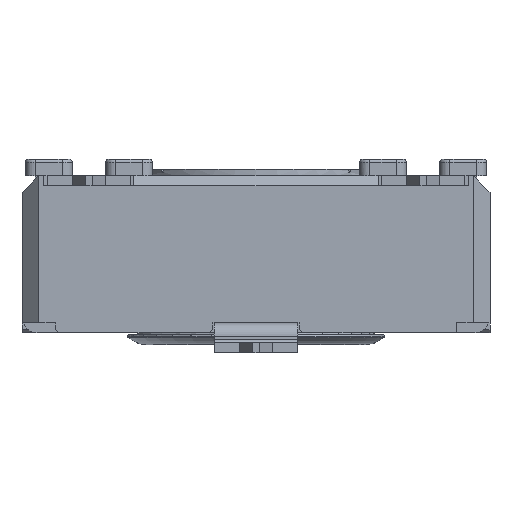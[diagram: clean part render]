
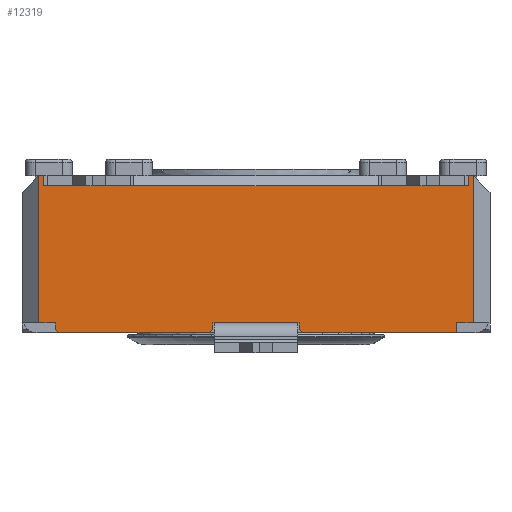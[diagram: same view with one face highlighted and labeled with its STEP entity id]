
A CAD part, front view. The second image highlights one B-rep face of the part: STEP entity #12319.
In plain terms, the highlighted planar face has unit normal (0, -1, 0).
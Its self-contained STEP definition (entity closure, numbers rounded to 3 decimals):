
#188=PLANE('',#13020);
#683=FACE_OUTER_BOUND('',#1347,.T.);
#1347=EDGE_LOOP('',(#8540,#8541,#8542,#8543,#8544,#8545,#8546,#8547,#8548,
#8549,#8550,#8551,#8552,#8553,#8554,#8555,#8556,#8557,#8558,#8559,#8560,
#8561,#8562,#8563,#8564,#8565,#8566));
#2022=LINE('',#17528,#3484);
#2035=LINE('',#17562,#3497);
#2040=LINE('',#17572,#3502);
#2118=LINE('',#17731,#3580);
#2143=LINE('',#17782,#3605);
#2169=LINE('',#17846,#3631);
#2170=LINE('',#17848,#3632);
#2171=LINE('',#17850,#3633);
#2172=LINE('',#17851,#3634);
#2173=LINE('',#17853,#3635);
#2174=LINE('',#17855,#3636);
#2175=LINE('',#17857,#3637);
#2176=LINE('',#17859,#3638);
#2177=LINE('',#17860,#3639);
#2178=LINE('',#17862,#3640);
#2179=LINE('',#17864,#3641);
#2180=LINE('',#17866,#3642);
#2181=LINE('',#17868,#3643);
#2182=LINE('',#17870,#3644);
#2183=LINE('',#17872,#3645);
#2184=LINE('',#17874,#3646);
#2185=LINE('',#17876,#3647);
#2186=LINE('',#17878,#3648);
#2187=LINE('',#17879,#3649);
#2188=LINE('',#17881,#3650);
#2189=LINE('',#17883,#3651);
#2190=LINE('',#17884,#3652);
#3484=VECTOR('',#14041,10.);
#3497=VECTOR('',#14080,10.);
#3502=VECTOR('',#14085,10.);
#3580=VECTOR('',#14187,10.);
#3605=VECTOR('',#14228,10.);
#3631=VECTOR('',#14276,10.);
#3632=VECTOR('',#14277,10.);
#3633=VECTOR('',#14278,10.);
#3634=VECTOR('',#14279,10.);
#3635=VECTOR('',#14280,10.);
#3636=VECTOR('',#14281,10.);
#3637=VECTOR('',#14282,10.);
#3638=VECTOR('',#14283,10.);
#3639=VECTOR('',#14284,10.);
#3640=VECTOR('',#14285,10.);
#3641=VECTOR('',#14286,10.);
#3642=VECTOR('',#14287,10.);
#3643=VECTOR('',#14288,10.);
#3644=VECTOR('',#14289,10.);
#3645=VECTOR('',#14290,10.);
#3646=VECTOR('',#14291,10.);
#3647=VECTOR('',#14292,10.);
#3648=VECTOR('',#14293,10.);
#3649=VECTOR('',#14294,10.);
#3650=VECTOR('',#14295,10.);
#3651=VECTOR('',#14296,10.);
#3652=VECTOR('',#14297,10.);
#5248=VERTEX_POINT('',#17506);
#5256=VERTEX_POINT('',#17527);
#5264=VERTEX_POINT('',#17561);
#5268=VERTEX_POINT('',#17569);
#5269=VERTEX_POINT('',#17571);
#5337=VERTEX_POINT('',#17728);
#5338=VERTEX_POINT('',#17730);
#5355=VERTEX_POINT('',#17779);
#5356=VERTEX_POINT('',#17781);
#5383=VERTEX_POINT('',#17845);
#5384=VERTEX_POINT('',#17847);
#5385=VERTEX_POINT('',#17849);
#5386=VERTEX_POINT('',#17852);
#5387=VERTEX_POINT('',#17854);
#5388=VERTEX_POINT('',#17856);
#5389=VERTEX_POINT('',#17858);
#5390=VERTEX_POINT('',#17861);
#5391=VERTEX_POINT('',#17863);
#5392=VERTEX_POINT('',#17865);
#5393=VERTEX_POINT('',#17867);
#5394=VERTEX_POINT('',#17869);
#5395=VERTEX_POINT('',#17871);
#5396=VERTEX_POINT('',#17873);
#5397=VERTEX_POINT('',#17875);
#5398=VERTEX_POINT('',#17877);
#5399=VERTEX_POINT('',#17880);
#5400=VERTEX_POINT('',#17882);
#6453=EDGE_CURVE('',#5248,#5256,#2022,.T.);
#6470=EDGE_CURVE('',#5264,#5248,#2035,.T.);
#6475=EDGE_CURVE('',#5269,#5268,#2040,.T.);
#6554=EDGE_CURVE('',#5338,#5337,#2118,.T.);
#6579=EDGE_CURVE('',#5356,#5355,#2143,.T.);
#6611=EDGE_CURVE('',#5337,#5383,#2169,.T.);
#6612=EDGE_CURVE('',#5383,#5384,#2170,.T.);
#6613=EDGE_CURVE('',#5384,#5385,#2171,.T.);
#6614=EDGE_CURVE('',#5269,#5385,#2172,.T.);
#6615=EDGE_CURVE('',#5268,#5386,#2173,.T.);
#6616=EDGE_CURVE('',#5387,#5386,#2174,.T.);
#6617=EDGE_CURVE('',#5387,#5388,#2175,.T.);
#6618=EDGE_CURVE('',#5389,#5388,#2176,.T.);
#6619=EDGE_CURVE('',#5264,#5389,#2177,.T.);
#6620=EDGE_CURVE('',#5256,#5390,#2178,.T.);
#6621=EDGE_CURVE('',#5390,#5391,#2179,.T.);
#6622=EDGE_CURVE('',#5392,#5391,#2180,.T.);
#6623=EDGE_CURVE('',#5392,#5393,#2181,.T.);
#6624=EDGE_CURVE('',#5393,#5394,#2182,.T.);
#6625=EDGE_CURVE('',#5394,#5395,#2183,.T.);
#6626=EDGE_CURVE('',#5396,#5395,#2184,.T.);
#6627=EDGE_CURVE('',#5396,#5397,#2185,.T.);
#6628=EDGE_CURVE('',#5397,#5398,#2186,.T.);
#6629=EDGE_CURVE('',#5398,#5356,#2187,.T.);
#6630=EDGE_CURVE('',#5355,#5399,#2188,.T.);
#6631=EDGE_CURVE('',#5400,#5399,#2189,.T.);
#6632=EDGE_CURVE('',#5400,#5338,#2190,.T.);
#8540=ORIENTED_EDGE('',*,*,#6554,.T.);
#8541=ORIENTED_EDGE('',*,*,#6611,.T.);
#8542=ORIENTED_EDGE('',*,*,#6612,.T.);
#8543=ORIENTED_EDGE('',*,*,#6613,.T.);
#8544=ORIENTED_EDGE('',*,*,#6614,.F.);
#8545=ORIENTED_EDGE('',*,*,#6475,.T.);
#8546=ORIENTED_EDGE('',*,*,#6615,.T.);
#8547=ORIENTED_EDGE('',*,*,#6616,.F.);
#8548=ORIENTED_EDGE('',*,*,#6617,.T.);
#8549=ORIENTED_EDGE('',*,*,#6618,.F.);
#8550=ORIENTED_EDGE('',*,*,#6619,.F.);
#8551=ORIENTED_EDGE('',*,*,#6470,.T.);
#8552=ORIENTED_EDGE('',*,*,#6453,.T.);
#8553=ORIENTED_EDGE('',*,*,#6620,.T.);
#8554=ORIENTED_EDGE('',*,*,#6621,.T.);
#8555=ORIENTED_EDGE('',*,*,#6622,.F.);
#8556=ORIENTED_EDGE('',*,*,#6623,.T.);
#8557=ORIENTED_EDGE('',*,*,#6624,.T.);
#8558=ORIENTED_EDGE('',*,*,#6625,.T.);
#8559=ORIENTED_EDGE('',*,*,#6626,.F.);
#8560=ORIENTED_EDGE('',*,*,#6627,.T.);
#8561=ORIENTED_EDGE('',*,*,#6628,.T.);
#8562=ORIENTED_EDGE('',*,*,#6629,.T.);
#8563=ORIENTED_EDGE('',*,*,#6579,.T.);
#8564=ORIENTED_EDGE('',*,*,#6630,.T.);
#8565=ORIENTED_EDGE('',*,*,#6631,.F.);
#8566=ORIENTED_EDGE('',*,*,#6632,.T.);
#12319=ADVANCED_FACE('',(#683),#188,.T.);
#13020=AXIS2_PLACEMENT_3D('',#17844,#14274,#14275);
#14041=DIRECTION('',(1.,0.,0.));
#14080=DIRECTION('',(1.,0.,0.));
#14085=DIRECTION('',(1.,0.,0.));
#14187=DIRECTION('',(-1.,0.,0.));
#14228=DIRECTION('',(-1.,0.,0.));
#14274=DIRECTION('center_axis',(0.,-1.,0.));
#14275=DIRECTION('ref_axis',(0.,0.,-1.));
#14276=DIRECTION('',(-1.,0.,0.));
#14277=DIRECTION('',(0.,0.,1.));
#14278=DIRECTION('',(-1.,0.,0.));
#14279=DIRECTION('',(0.,0.,1.));
#14280=DIRECTION('',(0.,0.,-1.));
#14281=DIRECTION('',(-0.707,0.,0.707));
#14282=DIRECTION('',(1.,0.,0.));
#14283=DIRECTION('',(-0.707,0.,-0.707));
#14284=DIRECTION('',(0.,0.,-1.));
#14285=DIRECTION('',(1.,0.,0.));
#14286=DIRECTION('',(0.,0.,-1.));
#14287=DIRECTION('',(-0.707,0.,0.707));
#14288=DIRECTION('',(1.,0.,0.));
#14289=DIRECTION('',(0.,0.,1.));
#14290=DIRECTION('',(1.,0.,0.));
#14291=DIRECTION('',(0.,0.,-1.));
#14292=DIRECTION('',(-1.,0.,0.));
#14293=DIRECTION('',(0.,0.,-1.));
#14294=DIRECTION('',(-1.,0.,0.));
#14295=DIRECTION('',(-1.,0.,0.));
#14296=DIRECTION('',(1.,0.,0.));
#14297=DIRECTION('',(-1.,0.,0.));
#17506=CARTESIAN_POINT('',(-8.717,-9.898,0.));
#17527=CARTESIAN_POINT('',(-6.217,-9.898,0.));
#17528=CARTESIAN_POINT('',(-14.467,-9.898,0.));
#17561=CARTESIAN_POINT('',(-8.767,-9.898,0.));
#17562=CARTESIAN_POINT('',(-14.467,-9.898,0.));
#17569=CARTESIAN_POINT('',(-13.467,-9.898,0.));
#17571=CARTESIAN_POINT('',(-13.967,-9.898,0.));
#17572=CARTESIAN_POINT('',(-7.245,-9.898,0.));
#17728=CARTESIAN_POINT('',(-13.717,-9.898,4.1));
#17730=CARTESIAN_POINT('',(-11.217,-9.898,4.1));
#17731=CARTESIAN_POINT('',(-6.467,-9.898,4.1));
#17779=CARTESIAN_POINT('',(-3.717,-9.898,4.1));
#17781=CARTESIAN_POINT('',(-1.217,-9.898,4.1));
#17782=CARTESIAN_POINT('',(-1.467,-9.898,4.1));
#17844=CARTESIAN_POINT('Origin',(-0.467,-9.898,0.));
#17845=CARTESIAN_POINT('',(-13.817,-9.898,4.1));
#17846=CARTESIAN_POINT('',(-3.944,-9.898,4.1));
#17847=CARTESIAN_POINT('',(-13.817,-9.898,4.4));
#17848=CARTESIAN_POINT('',(-13.817,-9.898,2.2));
#17849=CARTESIAN_POINT('',(-13.967,-9.898,4.4));
#17850=CARTESIAN_POINT('',(-14.467,-9.898,4.4));
#17851=CARTESIAN_POINT('',(-13.967,-9.898,0.));
#17852=CARTESIAN_POINT('',(-13.467,-9.898,-0.2));
#17853=CARTESIAN_POINT('',(-13.467,-9.898,-0.15));
#17854=CARTESIAN_POINT('',(-13.367,-9.898,-0.3));
#17855=CARTESIAN_POINT('',(-10.242,-9.898,-3.425));
#17856=CARTESIAN_POINT('',(-8.867,-9.898,-0.3));
#17857=CARTESIAN_POINT('',(-0.467,-9.898,-0.3));
#17858=CARTESIAN_POINT('',(-8.767,-9.898,-0.2));
#17859=CARTESIAN_POINT('',(-6.667,-9.898,1.9));
#17860=CARTESIAN_POINT('',(-8.767,-9.898,0.));
#17861=CARTESIAN_POINT('',(-6.167,-9.898,0.));
#17862=CARTESIAN_POINT('',(-14.467,-9.898,0.));
#17863=CARTESIAN_POINT('',(-6.167,-9.898,-0.2));
#17864=CARTESIAN_POINT('',(-6.167,-9.898,0.));
#17865=CARTESIAN_POINT('',(-6.067,-9.898,-0.3));
#17866=CARTESIAN_POINT('',(-4.767,-9.898,-1.6));
#17867=CARTESIAN_POINT('',(-1.467,-9.898,-0.3));
#17868=CARTESIAN_POINT('',(-0.467,-9.898,-0.3));
#17869=CARTESIAN_POINT('',(-1.467,-9.898,0.));
#17870=CARTESIAN_POINT('',(-1.467,-9.898,-0.15));
#17871=CARTESIAN_POINT('',(-0.967,-9.898,0.));
#17872=CARTESIAN_POINT('',(-0.646,-9.898,0.));
#17873=CARTESIAN_POINT('',(-0.967,-9.898,4.4));
#17874=CARTESIAN_POINT('',(-0.967,-9.898,0.));
#17875=CARTESIAN_POINT('',(-1.117,-9.898,4.4));
#17876=CARTESIAN_POINT('',(-14.467,-9.898,4.4));
#17877=CARTESIAN_POINT('',(-1.117,-9.898,4.1));
#17878=CARTESIAN_POINT('',(-1.117,-9.898,2.2));
#17879=CARTESIAN_POINT('',(-1.862,-9.898,4.1));
#17880=CARTESIAN_POINT('',(-3.817,-9.898,4.1));
#17881=CARTESIAN_POINT('',(-1.862,-9.898,4.1));
#17882=CARTESIAN_POINT('',(-11.117,-9.898,4.1));
#17883=CARTESIAN_POINT('',(-3.967,-9.898,4.1));
#17884=CARTESIAN_POINT('',(-3.944,-9.898,4.1));
